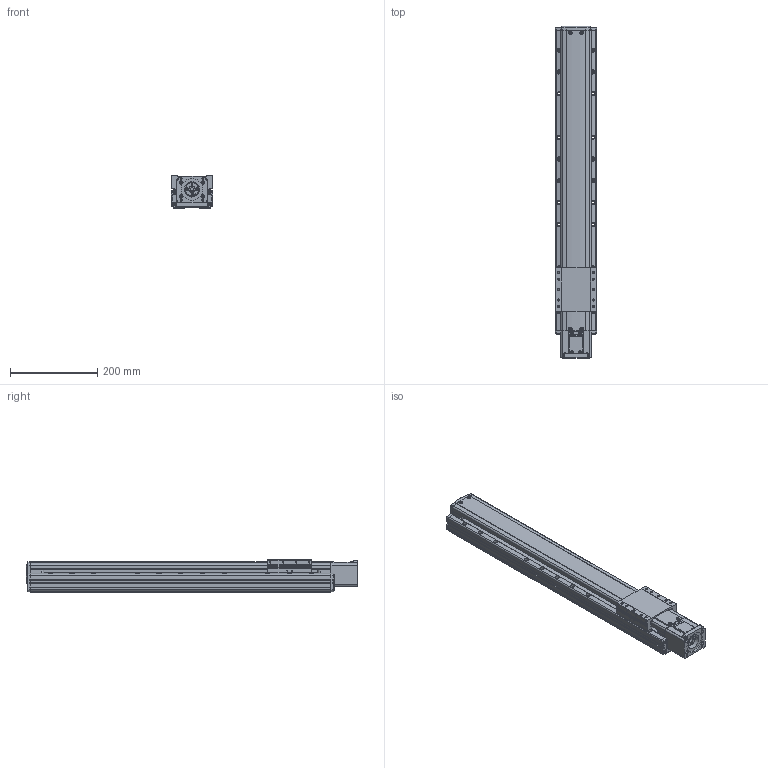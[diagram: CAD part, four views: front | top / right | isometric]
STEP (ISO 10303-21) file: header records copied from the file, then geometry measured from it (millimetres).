
FILE_DESCRIPTION(('STEP AP214'),'1');
FILE_NAME('Z:/Web/3D/PSA95/STP/PSA95-500 (3D)/PSA95ㅁㅁ-500S.stp','2014-07-03T00:24:22',(' '),(' '),'Spatial InterOp 3D',' ',' ');
FILE_SCHEMA(('automotive_design'));
Length unit declared in the file: millimetre
Products named in the file (35): BASE; RRCV; 스크루 : Round - M4.0 x 10.0; 너트 : Square - M10.0 x 220.7419; RR1500; FRCV-090; 스크루 : Round - M4.0 x 6.0; SLBL-PA90; SSFX-SAN65; CPLCV-SAN65; 스크루 : Round - M3.0 x 6.0; MTHZ-PA70/90-S60A-3; 스크루 : Socket - M4.0 x 20.0; NONE
Bounding box: 95 x 762.5 x 74 mm (x, y, z)
Volume: 3987052.7 mm3; surface area: 454645.2 mm2
Topology: 35 solids, 69 shells, 3087 faces, 7924 edges, 4988 vertices
Faces by surface type: plane 1462, cylinder 998, cone 391, torus 158, sphere 46, bspline 32
Entity records: 121764 total; most frequent: CARTESIAN_POINT 20135, DIRECTION 16576, ORIENTED_EDGE 15544, EDGE_CURVE 7772, AXIS2_PLACEMENT_3D 5951, VERTEX_POINT 4988, LINE 4674, VECTOR 4674
